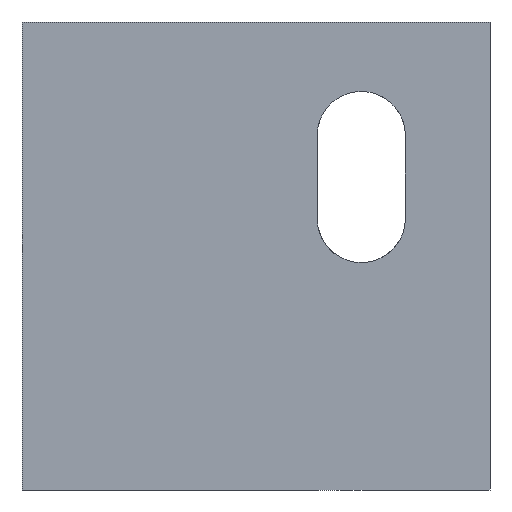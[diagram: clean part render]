
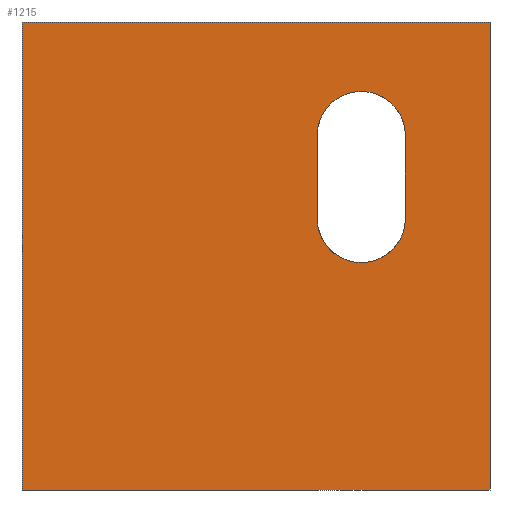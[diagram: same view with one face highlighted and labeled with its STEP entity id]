
A CAD part, left-side view. The second image highlights one B-rep face of the part: STEP entity #1215.
In plain terms, the highlighted planar face has unit normal (-1, 0, 0).
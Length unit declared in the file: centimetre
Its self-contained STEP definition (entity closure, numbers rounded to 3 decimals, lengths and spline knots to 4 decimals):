
#32 = CARTESIAN_POINT ( 'NONE',  ( 0., 1000., 0. ) ) ;
#38 = DIRECTION ( 'NONE',  ( 0., -1., 0. ) ) ;
#61 = FACE_BOUND ( 'NONE', #1125, .T. ) ;
#89 = VECTOR ( 'NONE', #343, 100. ) ;
#120 = ORIENTED_EDGE ( 'NONE', *, *, #2171, .T. ) ;
#135 = LINE ( 'NONE', #631, #632 ) ;
#161 = CARTESIAN_POINT ( 'NONE',  ( 0., 369.4051, 580.1818 ) ) ;
#167 = DIRECTION ( 'NONE',  ( 0., -1., 0. ) ) ;
#168 = EDGE_CURVE ( 'NONE', #332, #356, #2360, .T. ) ;
#171 = ORIENTED_EDGE ( 'NONE', *, *, #1827, .T. ) ;
#180 = ORIENTED_EDGE ( 'NONE', *, *, #1708, .T. ) ;
#192 = CARTESIAN_POINT ( 'NONE',  ( 0., 180.6629, 757.2593 ) ) ;
#241 = VERTEX_POINT ( 'NONE', #161 ) ;
#280 = DIRECTION ( 'NONE',  ( 0., 0., -1. ) ) ;
#292 = CARTESIAN_POINT ( 'NONE',  ( 0., 180.6629, 580.1818 ) ) ;
#331 = CARTESIAN_POINT ( 'NONE',  ( 0., 1000., 1000. ) ) ;
#332 = VERTEX_POINT ( 'NONE', #1177 ) ;
#343 = DIRECTION ( 'NONE',  ( 0., 0., 1. ) ) ;
#356 = VERTEX_POINT ( 'NONE', #525 ) ;
#370 = VERTEX_POINT ( 'NONE', #1771 ) ;
#415 = ORIENTED_EDGE ( 'NONE', *, *, #1323, .T. ) ;
#454 = LINE ( 'NONE', #1336, #2367 ) ;
#483 = DIRECTION ( 'NONE',  ( 1., 0., 0. ) ) ;
#525 = CARTESIAN_POINT ( 'NONE',  ( 0., 0., 0. ) ) ;
#560 = CARTESIAN_POINT ( 'NONE',  ( 0., 275.034, 757.2593 ) ) ;
#607 = ORIENTED_EDGE ( 'NONE', *, *, #1915, .F. ) ;
#631 = CARTESIAN_POINT ( 'NONE',  ( 0., 1000., 1000. ) ) ;
#632 = VECTOR ( 'NONE', #813, 100. ) ;
#640 = EDGE_CURVE ( 'NONE', #1050, #241, #1420, .T. ) ;
#677 = EDGE_CURVE ( 'NONE', #1916, #1315, #1342, .T. ) ;
#682 = VECTOR ( 'NONE', #2335, 100. ) ;
#709 = CARTESIAN_POINT ( 'NONE',  ( 0., 180.6629, 580.1818 ) ) ;
#790 = LINE ( 'NONE', #1359, #89 ) ;
#813 = DIRECTION ( 'NONE',  ( 0., 0., -1. ) ) ;
#879 = CARTESIAN_POINT ( 'NONE',  ( 0., 0., 1000. ) ) ;
#895 = FACE_OUTER_BOUND ( 'NONE', #2586, .T. ) ;
#917 = DIRECTION ( 'NONE',  ( 0., 0., -1. ) ) ;
#1024 = VERTEX_POINT ( 'NONE', #331 ) ;
#1031 = CIRCLE ( 'NONE', #1544, 94.3711 ) ;
#1050 = VERTEX_POINT ( 'NONE', #2195 ) ;
#1053 = CARTESIAN_POINT ( 'NONE',  ( 0., 275.034, 580.1818 ) ) ;
#1057 = EDGE_CURVE ( 'NONE', #370, #1916, #2551, .T. ) ;
#1124 = DIRECTION ( 'NONE',  ( 0., 0., 1. ) ) ;
#1125 = EDGE_LOOP ( 'NONE', ( #1800, #180, #2647, #120, #2453 ) ) ;
#1177 = CARTESIAN_POINT ( 'NONE',  ( 0., 0., 1000. ) ) ;
#1200 = VERTEX_POINT ( 'NONE', #32 ) ;
#1215 = ADVANCED_FACE ( 'NONE', ( #61, #895 ), #1541, .F. ) ;
#1315 = VERTEX_POINT ( 'NONE', #709 ) ;
#1323 = EDGE_CURVE ( 'NONE', #1200, #356, #454, .T. ) ;
#1336 = CARTESIAN_POINT ( 'NONE',  ( 0., 1000., 0. ) ) ;
#1342 = LINE ( 'NONE', #292, #2317 ) ;
#1359 = CARTESIAN_POINT ( 'NONE',  ( 0., 369.4051, 757.2593 ) ) ;
#1386 = DIRECTION ( 'NONE',  ( 0., 0., 1. ) ) ;
#1420 = CIRCLE ( 'NONE', #1505, 94.3711 ) ;
#1505 = AXIS2_PLACEMENT_3D ( 'NONE', #2332, #1679, #1124 ) ;
#1541 = PLANE ( 'NONE',  #1672 ) ;
#1544 = AXIS2_PLACEMENT_3D ( 'NONE', #1053, #2513, #2305 ) ;
#1672 = AXIS2_PLACEMENT_3D ( 'NONE', #1946, #483, #917 ) ;
#1679 = DIRECTION ( 'NONE',  ( 1., 0., 0. ) ) ;
#1708 = EDGE_CURVE ( 'NONE', #1315, #1050, #1031, .T. ) ;
#1771 = CARTESIAN_POINT ( 'NONE',  ( 0., 369.4051, 757.2593 ) ) ;
#1800 = ORIENTED_EDGE ( 'NONE', *, *, #677, .T. ) ;
#1827 = EDGE_CURVE ( 'NONE', #1024, #1200, #135, .T. ) ;
#1915 = EDGE_CURVE ( 'NONE', #1024, #332, #2041, .T. ) ;
#1916 = VERTEX_POINT ( 'NONE', #192 ) ;
#1946 = CARTESIAN_POINT ( 'NONE',  ( 0., 1000., 1000. ) ) ;
#2041 = LINE ( 'NONE', #2063, #2444 ) ;
#2063 = CARTESIAN_POINT ( 'NONE',  ( 0., 1000., 1000. ) ) ;
#2151 = ORIENTED_EDGE ( 'NONE', *, *, #168, .F. ) ;
#2171 = EDGE_CURVE ( 'NONE', #241, #370, #790, .T. ) ;
#2195 = CARTESIAN_POINT ( 'NONE',  ( 0., 275.034, 485.8107 ) ) ;
#2305 = DIRECTION ( 'NONE',  ( 0., 0., 1. ) ) ;
#2317 = VECTOR ( 'NONE', #280, 100. ) ;
#2332 = CARTESIAN_POINT ( 'NONE',  ( 0., 275.034, 580.1818 ) ) ;
#2335 = DIRECTION ( 'NONE',  ( 0., 0., -1. ) ) ;
#2360 = LINE ( 'NONE', #879, #682 ) ;
#2367 = VECTOR ( 'NONE', #38, 100. ) ;
#2444 = VECTOR ( 'NONE', #167, 100. ) ;
#2453 = ORIENTED_EDGE ( 'NONE', *, *, #1057, .T. ) ;
#2513 = DIRECTION ( 'NONE',  ( 1., 0., 0. ) ) ;
#2551 = CIRCLE ( 'NONE', #2690, 94.3711 ) ;
#2586 = EDGE_LOOP ( 'NONE', ( #415, #2151, #607, #171 ) ) ;
#2647 = ORIENTED_EDGE ( 'NONE', *, *, #640, .T. ) ;
#2655 = DIRECTION ( 'NONE',  ( 1., 0., 0. ) ) ;
#2690 = AXIS2_PLACEMENT_3D ( 'NONE', #560, #2655, #1386 ) ;
